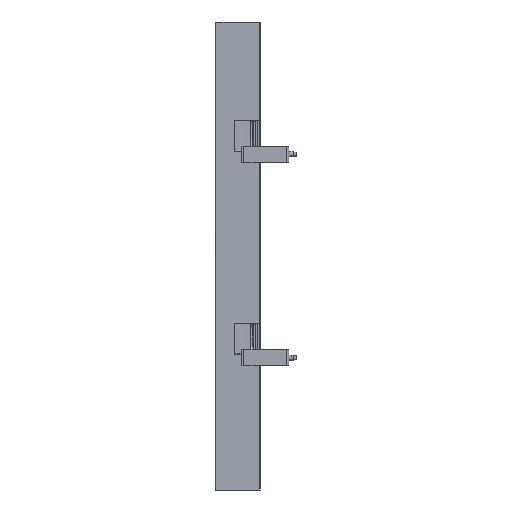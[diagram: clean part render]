
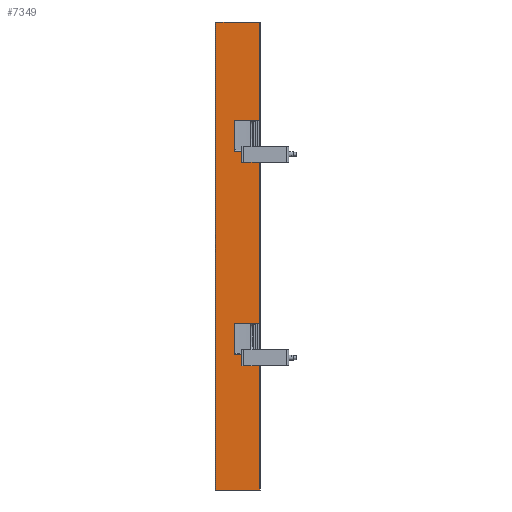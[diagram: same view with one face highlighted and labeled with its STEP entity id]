
A CAD part, left-side view. The second image highlights one B-rep face of the part: STEP entity #7349.
In plain terms, the highlighted planar face has unit normal (-1, 0, 0).
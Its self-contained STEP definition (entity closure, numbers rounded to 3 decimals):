
#1180=ORIENTED_EDGE('',*,*,#3310,.T.);
#1181=ORIENTED_EDGE('',*,*,#3311,.F.);
#1182=ORIENTED_EDGE('',*,*,#3312,.F.);
#1183=ORIENTED_EDGE('',*,*,#3313,.T.);
#1184=ORIENTED_EDGE('',*,*,#3314,.T.);
#1185=ORIENTED_EDGE('',*,*,#3315,.F.);
#1186=ORIENTED_EDGE('',*,*,#3316,.F.);
#1187=ORIENTED_EDGE('',*,*,#3317,.F.);
#1188=ORIENTED_EDGE('',*,*,#3318,.T.);
#1189=ORIENTED_EDGE('',*,*,#3319,.T.);
#1190=ORIENTED_EDGE('',*,*,#3320,.F.);
#1191=ORIENTED_EDGE('',*,*,#3321,.T.);
#3310=EDGE_CURVE('',#4358,#4359,#5065,.T.);
#3311=EDGE_CURVE('',#4360,#4359,#5066,.T.);
#3312=EDGE_CURVE('',#4361,#4360,#5067,.T.);
#3313=EDGE_CURVE('',#4361,#4362,#5068,.T.);
#3314=EDGE_CURVE('',#4362,#4363,#5069,.T.);
#3315=EDGE_CURVE('',#4364,#4363,#5070,.T.);
#3316=EDGE_CURVE('',#4365,#4364,#5071,.T.);
#3317=EDGE_CURVE('',#4366,#4365,#5072,.T.);
#3318=EDGE_CURVE('',#4366,#4367,#5073,.T.);
#3319=EDGE_CURVE('',#4367,#4368,#5074,.T.);
#3320=EDGE_CURVE('',#4369,#4368,#5075,.T.);
#3321=EDGE_CURVE('',#4369,#4358,#5076,.T.);
#4358=VERTEX_POINT('',#11717);
#4359=VERTEX_POINT('',#11718);
#4360=VERTEX_POINT('',#11720);
#4361=VERTEX_POINT('',#11722);
#4362=VERTEX_POINT('',#11724);
#4363=VERTEX_POINT('',#11726);
#4364=VERTEX_POINT('',#11728);
#4365=VERTEX_POINT('',#11730);
#4366=VERTEX_POINT('',#11732);
#4367=VERTEX_POINT('',#11734);
#4368=VERTEX_POINT('',#11736);
#4369=VERTEX_POINT('',#11738);
#5065=LINE('',#11716,#5579);
#5066=LINE('',#11719,#5580);
#5067=LINE('',#11721,#5581);
#5068=LINE('',#11723,#5582);
#5069=LINE('',#11725,#5583);
#5070=LINE('',#11727,#5584);
#5071=LINE('',#11729,#5585);
#5072=LINE('',#11731,#5586);
#5073=LINE('',#11733,#5587);
#5074=LINE('',#11735,#5588);
#5075=LINE('',#11737,#5589);
#5076=LINE('',#11739,#5590);
#5579=VECTOR('',#9315,1000.);
#5580=VECTOR('',#9316,1000.);
#5581=VECTOR('',#9317,1000.);
#5582=VECTOR('',#9318,1000.);
#5583=VECTOR('',#9319,1000.);
#5584=VECTOR('',#9320,1000.);
#5585=VECTOR('',#9321,1000.);
#5586=VECTOR('',#9322,1000.);
#5587=VECTOR('',#9323,1000.);
#5588=VECTOR('',#9324,1000.);
#5589=VECTOR('',#9325,1000.);
#5590=VECTOR('',#9326,1000.);
#6003=EDGE_LOOP('',(#1180,#1181,#1182,#1183,#1184,#1185,#1186,#1187,#1188,
#1189,#1190,#1191));
#6609=FACE_BOUND('',#6003,.T.);
#7186=PLANE('',#8195);
#7349=ADVANCED_FACE('',(#6609),#7186,.F.);
#8195=AXIS2_PLACEMENT_3D('',#11715,#9313,#9314);
#9313=DIRECTION('',(1.,0.,0.));
#9314=DIRECTION('',(0.,1.,0.));
#9315=DIRECTION('',(0.,0.,1.));
#9316=DIRECTION('',(0.,1.,0.));
#9317=DIRECTION('',(0.,0.,-1.));
#9318=DIRECTION('',(0.,1.,0.));
#9319=DIRECTION('',(0.,0.,1.));
#9320=DIRECTION('',(0.,1.,0.));
#9321=DIRECTION('',(0.,0.,-1.));
#9322=DIRECTION('',(0.,-1.,0.));
#9323=DIRECTION('',(0.,0.,-1.));
#9324=DIRECTION('',(0.,-1.,0.));
#9325=DIRECTION('',(0.,0.,-1.));
#9326=DIRECTION('',(0.,1.,0.));
#11715=CARTESIAN_POINT('',(-14.,-7.5,256.5));
#11716=CARTESIAN_POINT('',(-14.,20.,-74.5));
#11717=CARTESIAN_POINT('',(-14.,20.,-108.5));
#11718=CARTESIAN_POINT('',(-14.,20.,-74.5));
#11719=CARTESIAN_POINT('',(-14.,-516.095,-74.5));
#11720=CARTESIAN_POINT('',(-14.,-7.5,-74.5));
#11721=CARTESIAN_POINT('',(-14.,-7.5,256.5));
#11722=CARTESIAN_POINT('',(-14.,-7.5,114.5));
#11723=CARTESIAN_POINT('',(-14.,-516.095,114.5));
#11724=CARTESIAN_POINT('',(-14.,20.,114.5));
#11725=CARTESIAN_POINT('',(-14.,20.,148.5));
#11726=CARTESIAN_POINT('',(-14.,20.,148.5));
#11727=CARTESIAN_POINT('',(-14.,-516.095,148.5));
#11728=CARTESIAN_POINT('',(-14.,-7.5,148.5));
#11729=CARTESIAN_POINT('',(-14.,-7.5,256.5));
#11730=CARTESIAN_POINT('',(-14.,-7.5,256.5));
#11731=CARTESIAN_POINT('',(-14.,-7.5,256.5));
#11732=CARTESIAN_POINT('',(-14.,40.5,256.5));
#11733=CARTESIAN_POINT('',(-14.,40.5,256.5));
#11734=CARTESIAN_POINT('',(-14.,40.5,-256.5));
#11735=CARTESIAN_POINT('',(-14.,-7.5,-256.5));
#11736=CARTESIAN_POINT('',(-14.,-7.5,-256.5));
#11737=CARTESIAN_POINT('',(-14.,-7.5,256.5));
#11738=CARTESIAN_POINT('',(-14.,-7.5,-108.5));
#11739=CARTESIAN_POINT('',(-14.,-516.095,-108.5));
